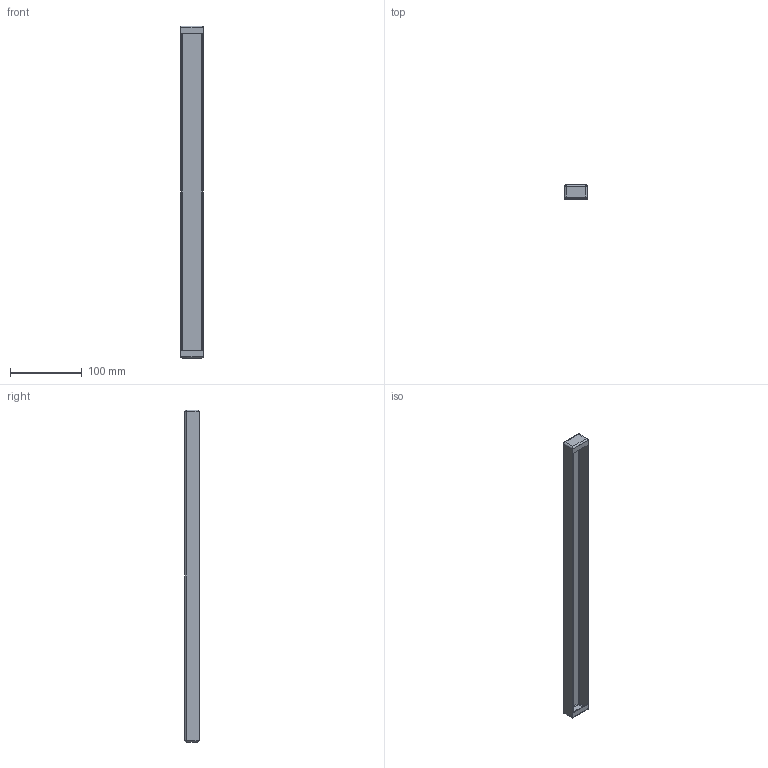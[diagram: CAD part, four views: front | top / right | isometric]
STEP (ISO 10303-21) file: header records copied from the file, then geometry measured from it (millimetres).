
FILE_DESCRIPTION (( 'STEP AP203' ), '1' );
FILE_NAME ('GB 50 RS Ïëàíêà çàùèòíàÿ èç íåðæ. ñòàëè.STEP', '2013-01-09T15:51:42', ( 'System' ), ( '' ), 'SwSTEP 2.0', 'SolidWorks 2012', '' );
FILE_SCHEMA (( 'CONFIG_CONTROL_DESIGN' ));
Length unit declared in the file: millimetre
Products named in the file (1): GB 50 RS Ïëàíêà çàùèòíàÿ èç íåðæ. ñòàëè
Bounding box: 32 x 20 x 464 mm (x, y, z)
Volume: 39666.1 mm3; surface area: 67253.7 mm2
Topology: 1 solids, 1 shells, 43 faces, 96 edges, 48 vertices
Faces by surface type: cylinder 20, plane 15, sphere 8
Entity records: 1167 total; most frequent: CARTESIAN_POINT 204, DIRECTION 192, ORIENTED_EDGE 176, EDGE_CURVE 88, AXIS2_PLACEMENT_3D 68, VECTOR 56, LINE 56, VERTEX_POINT 48
